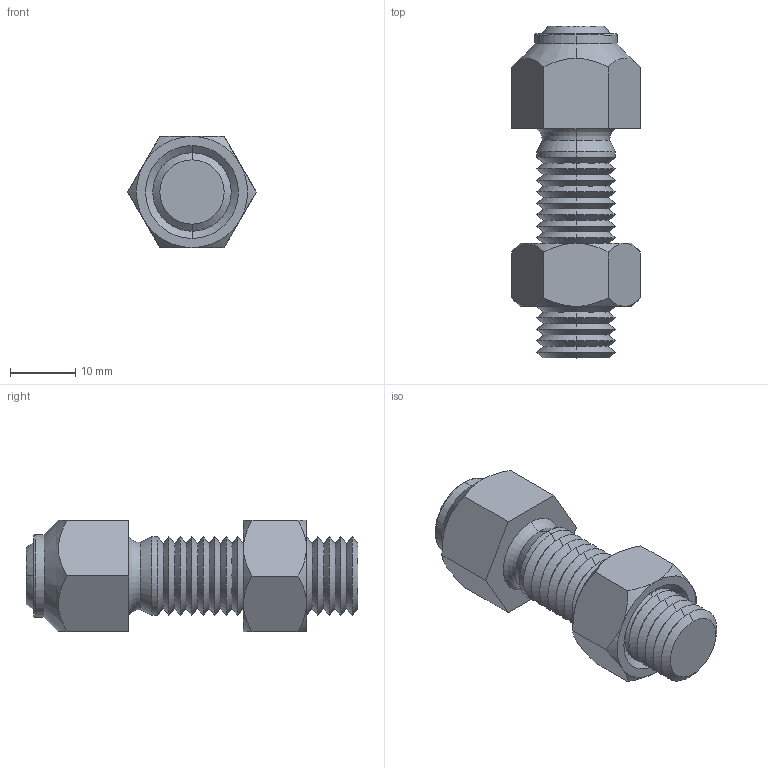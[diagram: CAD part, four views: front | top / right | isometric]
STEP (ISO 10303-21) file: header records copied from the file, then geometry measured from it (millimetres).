
FILE_DESCRIPTION (( 'STEP AP203' ), '1' );
FILE_NAME ('34120.W0017.step', '2017-03-27T09:19:54', ( 'User' ), ( '' ), 'SwSTEP 2.0', 'SolidWorks 2009', '' );
FILE_SCHEMA (( 'CONFIG_CONTROL_DESIGN' ));
Length unit declared in the file: millimetre
Products named in the file (4): 34120.W0017; Part1_34120.W0017; Part2_34120.W0017; Part3_34120.W0017
Assembly tree (3 placements, depth 2):
  34120.W0017
    Part3_34120.W0017
    Part1_34120.W0017
    Part2_34120.W0017
Bounding box: 19.63 x 50.7 x 17 mm (x, y, z)
Volume: 7858.3 mm3; surface area: 4846.5 mm2
Topology: 3 solids, 3 shells, 130 faces, 280 edges, 154 vertices
Faces by surface type: cone 90, plane 20, torus 8, cylinder 8, sphere 4
Entity records: 3965 total; most frequent: CARTESIAN_POINT 785, DIRECTION 644, ORIENTED_EDGE 540, EDGE_CURVE 270, AXIS2_PLACEMENT_3D 270, VERTEX_POINT 148, EDGE_LOOP 134, CIRCLE 134
